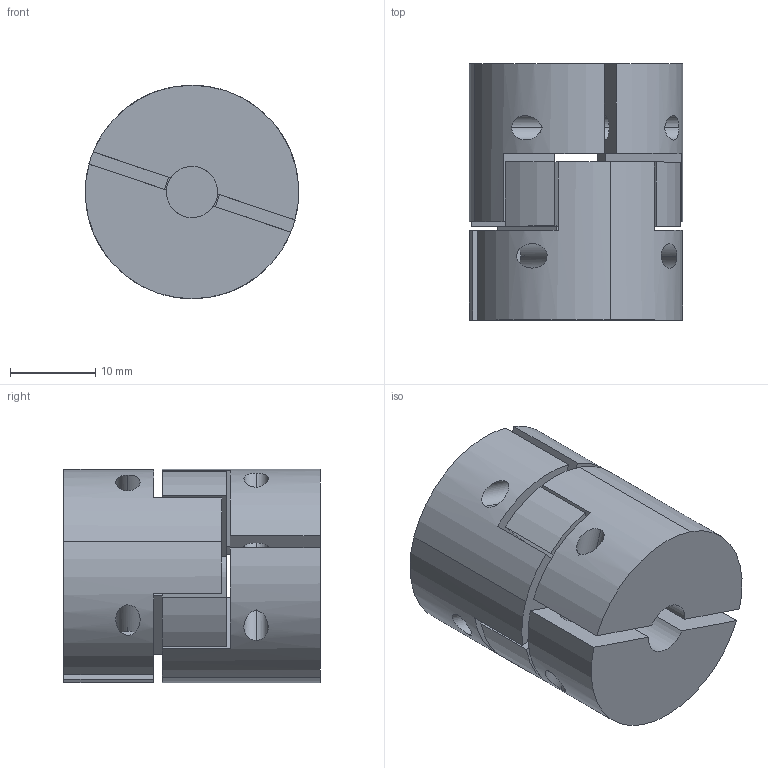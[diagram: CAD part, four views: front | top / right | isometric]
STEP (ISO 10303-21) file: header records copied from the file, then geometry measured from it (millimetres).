
FILE_DESCRIPTION (( 'STEP AP214' ), '1' );
FILE_NAME ('2.5021 Sakarakytkin MM2 25 D6.35_6.35.STEP', '2024-05-30T12:12:15', ( '' ), ( '' ), 'SwSTEP 2.0', 'SolidWorks 2024', '' );
FILE_SCHEMA (( 'AUTOMOTIVE_DESIGN' ));
Length unit declared in the file: millimetre
Products named in the file (1): 2.5021 Sakarakytkin MM2 25 D6.35_6.35
Bounding box: 25 x 30 x 25 mm (x, y, z)
Volume: 12274.5 mm3; surface area: 7224.2 mm2
Topology: 5 solids, 5 shells, 78 faces, 204 edges, 136 vertices
Faces by surface type: plane 42, cylinder 36
Entity records: 3597 total; most frequent: CARTESIAN_POINT 1347, DIRECTION 410, ORIENTED_EDGE 408, EDGE_CURVE 204, AXIS2_PLACEMENT_3D 143, VERTEX_POINT 136, VECTOR 124, LINE 124
